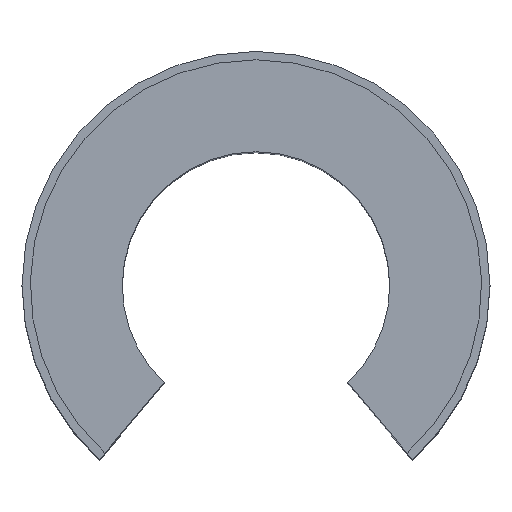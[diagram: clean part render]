
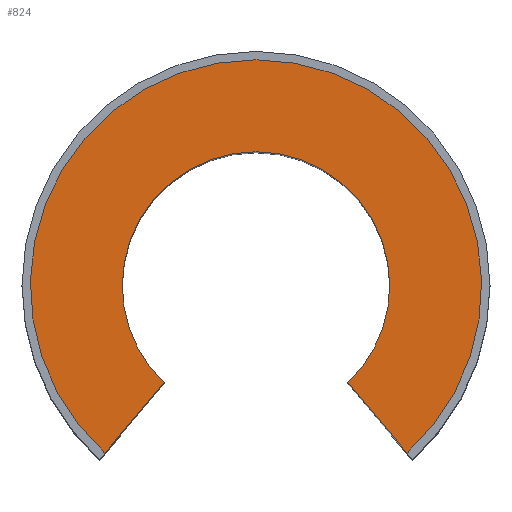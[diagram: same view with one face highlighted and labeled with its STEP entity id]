
A CAD part, top view. The second image highlights one B-rep face of the part: STEP entity #824.
In plain terms, the highlighted planar face has unit normal (0, 0, 1).
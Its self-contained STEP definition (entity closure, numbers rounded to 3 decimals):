
#51=CARTESIAN_POINT('',(8.0,0.,37.0));
#52=VERTEX_POINT('',#51);
#68=CARTESIAN_POINT('',(5.5,-5.809,37.0));
#69=VERTEX_POINT('',#68);
#76=CARTESIAN_POINT('',(0.0,0.0,37.0));
#77=DIRECTION('',(0.0,0.0,-1.0));
#78=DIRECTION('',(-1.0,0.0,0.0));
#79=AXIS2_PLACEMENT_3D('',#76,#77,#78);
#80=CIRCLE('',#79,8.0);
#81=EDGE_CURVE('',#52,#69,#80,.T.);
#91=CARTESIAN_POINT('',(-8.0,0.,37.0));
#92=VERTEX_POINT('',#91);
#101=CARTESIAN_POINT('',(-5.5,-5.809,37.0));
#102=VERTEX_POINT('',#101);
#103=CARTESIAN_POINT('',(0.0,0.0,37.0));
#104=DIRECTION('',(0.0,0.0,-1.0));
#105=DIRECTION('',(-1.0,0.0,0.0));
#106=AXIS2_PLACEMENT_3D('',#103,#104,#105);
#107=CIRCLE('',#106,8.0);
#108=EDGE_CURVE('',#102,#92,#107,.T.);
#469=CARTESIAN_POINT('',(-9.039,-10.027,37.0));
#470=VERTEX_POINT('',#469);
#539=CARTESIAN_POINT('',(-9.039,-10.027,37.0));
#540=DIRECTION('',(0.643,0.766,0.0));
#541=VECTOR('',#540,5.506);
#542=LINE('',#539,#541);
#543=EDGE_CURVE('',#470,#102,#542,.T.);
#553=CARTESIAN_POINT('',(9.039,-10.027,37.0));
#554=VERTEX_POINT('',#553);
#561=CARTESIAN_POINT('',(5.5,-5.809,37.0));
#562=DIRECTION('',(0.643,-0.766,0.0));
#563=VECTOR('',#562,5.506);
#564=LINE('',#561,#563);
#565=EDGE_CURVE('',#69,#554,#564,.T.);
#799=CARTESIAN_POINT('',(0.0,0.0,37.0));
#800=DIRECTION('',(0.0,0.0,-1.0));
#801=DIRECTION('',(-1.0,0.0,0.0));
#802=AXIS2_PLACEMENT_3D('',#799,#800,#801);
#803=PLANE('',#802);
#804=ORIENTED_EDGE('',*,*,#565,.T.);
#805=CARTESIAN_POINT('',(0.0,0.0,37.0));
#806=DIRECTION('',(0.0,0.0,-1.0));
#807=DIRECTION('',(1.0,0.0,0.0));
#808=AXIS2_PLACEMENT_3D('',#805,#806,#807);
#809=CIRCLE('',#808,13.5);
#810=EDGE_CURVE('',#470,#554,#809,.T.);
#811=ORIENTED_EDGE('',*,*,#810,.F.);
#812=ORIENTED_EDGE('',*,*,#543,.T.);
#813=ORIENTED_EDGE('',*,*,#108,.T.);
#814=CARTESIAN_POINT('',(0.0,0.0,37.0));
#815=DIRECTION('',(0.0,0.0,-1.0));
#816=DIRECTION('',(-1.0,0.0,0.0));
#817=AXIS2_PLACEMENT_3D('',#814,#815,#816);
#818=CIRCLE('',#817,8.0);
#819=EDGE_CURVE('',#92,#52,#818,.T.);
#820=ORIENTED_EDGE('',*,*,#819,.T.);
#821=ORIENTED_EDGE('',*,*,#81,.T.);
#822=EDGE_LOOP('',(#804,#811,#812,#813,#820,#821));
#823=FACE_OUTER_BOUND('',#822,.T.);
#824=ADVANCED_FACE('',(#823),#803,.F.);
